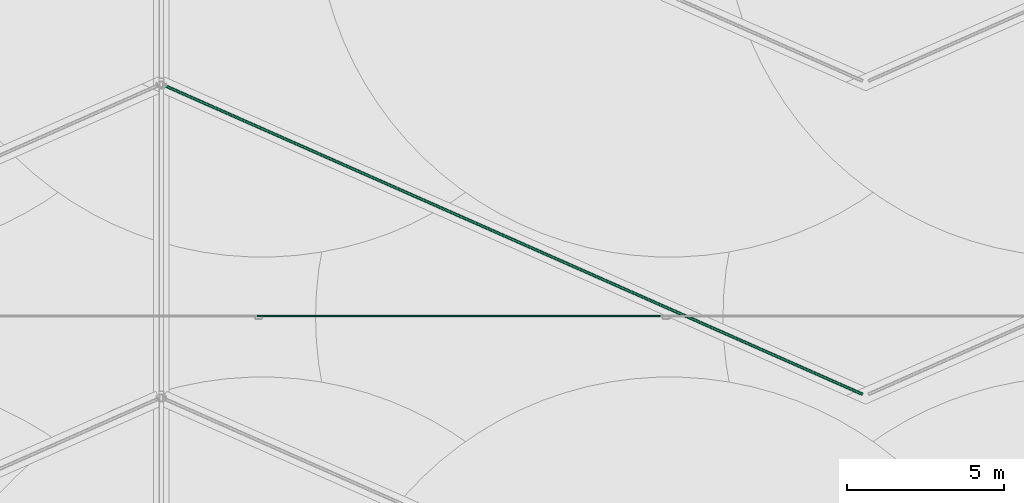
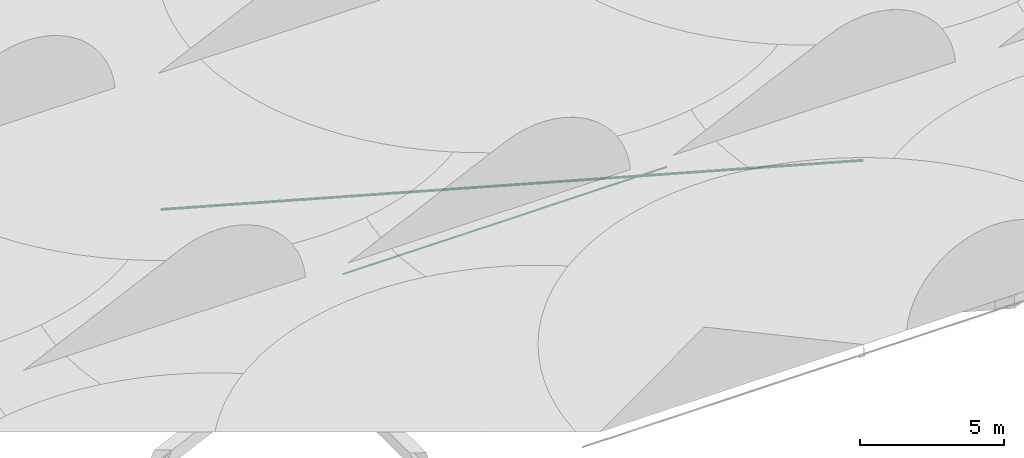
# One storey, part 11 of 166: 2 flow segments.
"""IFC2X3 building model written with IfcOpenShell, lengths in metres."""

from ifc_helpers import new_model, entity, si_unit, converted_unit, direction, frame, frame_2d, origin, place, context, subcontext, project, spatial, circle, extrude, type_object, element, save


model = new_model("IFC2X3")

# Units and contexts
model_context = context("Model", 3, precision=1e-05, world=origin(), true_north=direction((6.123233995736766e-17, 1.0)))
body_context = subcontext(model_context, "Body", "Model", "MODEL_VIEW")
ifc_project = project(units=[si_unit("LENGTHUNIT", "METRE"), converted_unit("PLANEANGLEUNIT", "DEGREE", entity("IfcPlaneAngleMeasure", 0.017453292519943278), si_unit("PLANEANGLEUNIT", "RADIAN"), dimensions=[0, 0, 0, 0, 0, 0, 0]), si_unit("AREAUNIT", "SQUARE_METRE")], contexts=[model_context])

# Site, building, storey
site_placement = place(None, origin())
site = spatial("IfcSite", under=ifc_project, at=site_placement, Name="Default", CompositionType="ELEMENT")
building_placement = place(site_placement, origin())
building = spatial("IfcBuilding", under=site, at=building_placement, Name="CASA DE ACOLHIDA PARA IDOSOS", CompositionType="ELEMENT")
storey_placement = place(building_placement, frame((0.0, 0.0, -1.7499999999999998)))
storey = spatial("IfcBuildingStorey", under=building, at=storey_placement, Name="IMPLANTAÇÃO DRENAGEM", CompositionType="ELEMENT", Elevation=-1.7499999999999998)

# Flow segments
pipe_segment_type_1 = type_object("IfcPipeSegmentType", Name="Tipos de tubos:PLUV_Tubo PEAD Corrugado", PredefinedType="NOTDEFINED")
flow_segment_1_placement = place(storey_placement, origin())
element("IfcFlowSegment", 1, at=flow_segment_1_placement, inside=storey, type_object=pipe_segment_type_1, Name="Tipos de tubos:PLUV_Tubo PEAD Corrugado", ObjectType="Tipos de tubos:PLUV_Tubo PEAD Corrugado", context=body_context, shape_type="SweptSolid", body=[
    extrude(circle(Radius=0.05, at=frame_2d((4.951603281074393e-16, 2.1900173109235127e-18), x_axis=(1.0, 0.0))), frame((-21.981366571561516, 3.8549420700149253, -0.8947999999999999), z_axis=(0.9144899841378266, -0.4044849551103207, 0.009999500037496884), x_axis=(0.40450517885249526, 0.9145357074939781, 0.0)), (0.0, 0.0, 1.0), 24.48022857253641),
])
pipe_segment_type_2 = type_object("IfcPipeSegmentType", Name="Tipos de tubos:AF_Tubo Marrom Soldável", PredefinedType="NOTDEFINED")
flow_segment_2_placement = place(storey_placement, origin())
element("IfcFlowSegment", 2, at=flow_segment_2_placement, inside=storey, type_object=pipe_segment_type_2, Name="Tipos de tubos:AF_Tubo Marrom Soldável", ObjectType="Tipos de tubos:AF_Tubo Marrom Soldável", context=body_context, shape_type="SweptSolid", body=[
    extrude(circle(Radius=0.025, at=frame_2d((0.0, -2.707167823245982e-16), x_axis=(1.0, 0.0))), frame((-18.95834889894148, -3.545057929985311, -0.19999999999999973), z_axis=(1.0, 0.0, 0.0), x_axis=(0.0, -1.0, 0.0)), (0.0, 0.0, 1.0), 12.9348),
])

save(model, "model.ifc")
